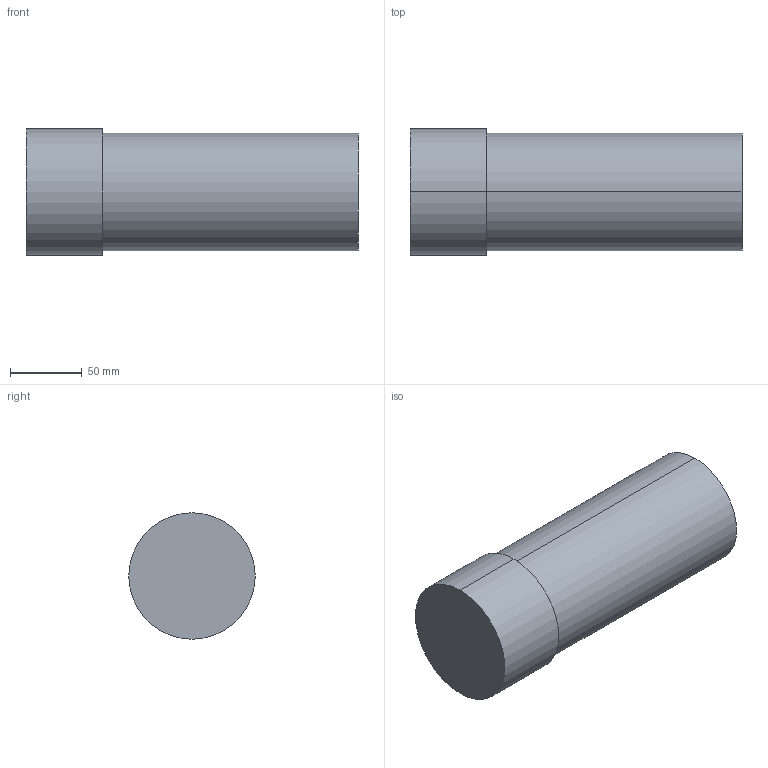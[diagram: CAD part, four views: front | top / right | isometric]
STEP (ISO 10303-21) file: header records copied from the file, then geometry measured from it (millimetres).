
FILE_DESCRIPTION (( 'STEP AP203' ), '1' );
FILE_NAME ('youxiang.STEP', '2023-04-06T07:05:51', ( '' ), ( '' ), 'SwSTEP 2.0', 'SolidWorks 2016', '' );
FILE_SCHEMA (( 'CONFIG_CONTROL_DESIGN' ));
Length unit declared in the file: millimetre
Products named in the file (1): youxiang
Bounding box: 231 x 88 x 88 mm (x, y, z)
Volume: 1262373.6 mm3; surface area: 72671.3 mm2
Topology: 1 solids, 1 shells, 7 faces, 12 edges, 8 vertices
Faces by surface type: cylinder 4, plane 3
Entity records: 251 total; most frequent: DIRECTION 36, CARTESIAN_POINT 28, ORIENTED_EDGE 24, AXIS2_PLACEMENT_3D 16, EDGE_CURVE 12, VERTEX_POINT 8, EDGE_LOOP 8, CIRCLE 8
